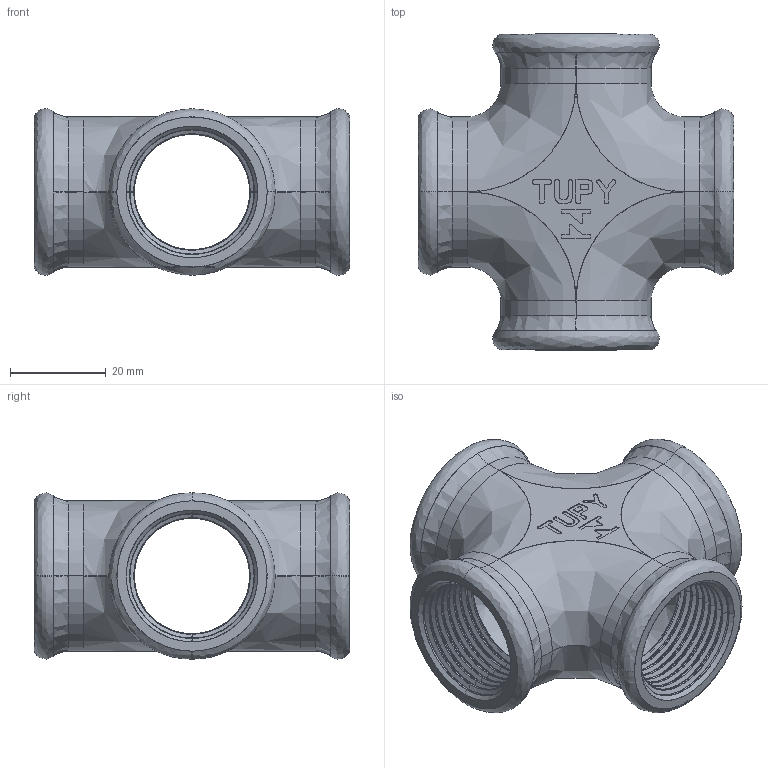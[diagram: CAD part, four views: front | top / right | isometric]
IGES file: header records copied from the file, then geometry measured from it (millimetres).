
Start section: SolidWorks IGES file using analytic representation for surfaces
Global section: file name: C:\Users\Joel Rosa\Desktop\Tubulação\12-18-OK\12-18-006.IGS; native system: SolidWorks 2011; preprocessor: SolidWorks 2011; author: Joel Rosa; date: 121207.003215; units: millimetre
Bounding box: 66 x 66 x 34.8 mm (x, y, z)
Surface area: 21469.3 mm2 (no closed solid volume)
Topology: 0 solids, 0 shells, 506 faces, 3769 edges, 3769 vertices
Faces by surface type: bspline 336, revolution 170
